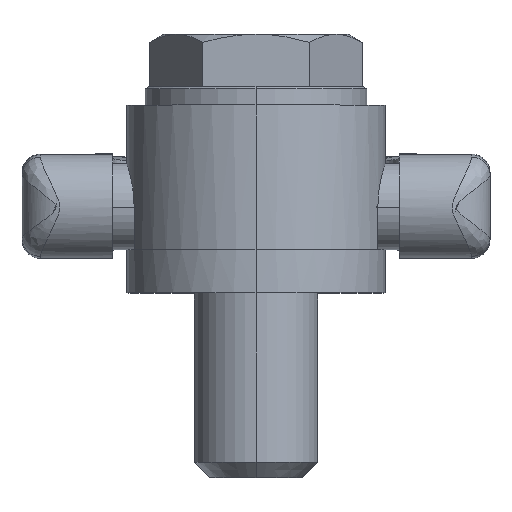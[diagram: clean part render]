
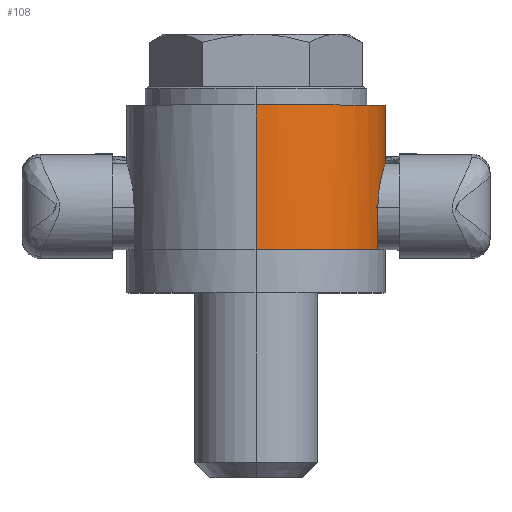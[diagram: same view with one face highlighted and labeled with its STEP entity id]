
A CAD part, top view. The second image highlights one B-rep face of the part: STEP entity #108.
In plain terms, the highlighted cylindrical face has radius 21 mm (diameter 42 mm), a partial arc.
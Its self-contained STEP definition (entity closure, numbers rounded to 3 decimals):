
#64 = VERTEX_POINT ( 'NONE', #1608 ) ;
#65 = VERTEX_POINT ( 'NONE', #1607 ) ;
#82 = ORIENTED_EDGE ( 'NONE', *, *, #304, .F. ) ;
#99 = EDGE_CURVE ( 'NONE', #64, #65, #1894, .T. ) ;
#107 = EDGE_LOOP ( 'NONE', ( #109, #183, #82, #294, #403, #416, #314, #321 ) ) ;
#108 = ADVANCED_FACE ( 'NONE', ( #1843 ), #1842, .T. ) ;
#109 = ORIENTED_EDGE ( 'NONE', *, *, #99, .F. ) ;
#183 = ORIENTED_EDGE ( 'NONE', *, *, #185, .T. ) ;
#185 = EDGE_CURVE ( 'NONE', #64, #186, #2091, .T. ) ;
#186 = VERTEX_POINT ( 'NONE', #2087 ) ;
#294 = ORIENTED_EDGE ( 'NONE', *, *, #401, .T. ) ;
#304 = EDGE_CURVE ( 'NONE', #379, #186, #2571, .T. ) ;
#313 = VERTEX_POINT ( 'NONE', #2515 ) ;
#314 = ORIENTED_EDGE ( 'NONE', *, *, #315, .F. ) ;
#315 = EDGE_CURVE ( 'NONE', #316, #313, #2459, .T. ) ;
#316 = VERTEX_POINT ( 'NONE', #2454 ) ;
#321 = ORIENTED_EDGE ( 'NONE', *, *, #322, .F. ) ;
#322 = EDGE_CURVE ( 'NONE', #65, #316, #2447, .T. ) ;
#379 = VERTEX_POINT ( 'NONE', #2716 ) ;
#401 = EDGE_CURVE ( 'NONE', #379, #421, #2892, .T. ) ;
#403 = ORIENTED_EDGE ( 'NONE', *, *, #405, .T. ) ;
#405 = EDGE_CURVE ( 'NONE', #421, #407, #2780, .T. ) ;
#407 = VERTEX_POINT ( 'NONE', #3003 ) ;
#416 = ORIENTED_EDGE ( 'NONE', *, *, #418, .T. ) ;
#418 = EDGE_CURVE ( 'NONE', #407, #313, #2963, .T. ) ;
#421 = VERTEX_POINT ( 'NONE', #3009 ) ;
#1607 = CARTESIAN_POINT ( 'NONE',  ( 0., 30.5, -21. ) ) ;
#1608 = CARTESIAN_POINT ( 'NONE',  ( 0., 30.5, 21. ) ) ;
#1837 = DIRECTION ( 'NONE',  ( 0., 0., -1. ) ) ;
#1838 = DIRECTION ( 'NONE',  ( 0., -1., 0. ) ) ;
#1839 = CARTESIAN_POINT ( 'NONE',  ( 0., 33.5, 0. ) ) ;
#1840 = AXIS2_PLACEMENT_3D ( 'NONE', #1839, #1838, #1837 ) ;
#1842 = CYLINDRICAL_SURFACE ( 'NONE', #1840, 21. ) ;
#1843 = FACE_OUTER_BOUND ( 'NONE', #107, .T. ) ;
#1850 = DIRECTION ( 'NONE',  ( 0., 0., 1. ) ) ;
#1851 = DIRECTION ( 'NONE',  ( 0., 1., 0. ) ) ;
#1852 = CARTESIAN_POINT ( 'NONE',  ( 0., 30.5, 0. ) ) ;
#1894 = CIRCLE ( 'NONE', #1896, 21. ) ;
#1896 = AXIS2_PLACEMENT_3D ( 'NONE', #1852, #1851, #1850 ) ;
#2087 = CARTESIAN_POINT ( 'NONE',  ( 0., 7., 21. ) ) ;
#2088 = DIRECTION ( 'NONE',  ( 0., -1., 0. ) ) ;
#2089 = VECTOR ( 'NONE', #2088, 1000. ) ;
#2090 = CARTESIAN_POINT ( 'NONE',  ( 0., 33.5, 21. ) ) ;
#2091 = LINE ( 'NONE', #2090, #2089 ) ;
#2444 = DIRECTION ( 'NONE',  ( 0., -1., 0. ) ) ;
#2445 = VECTOR ( 'NONE', #2444, 1000. ) ;
#2446 = CARTESIAN_POINT ( 'NONE',  ( 0., 33.5, -21. ) ) ;
#2447 = LINE ( 'NONE', #2446, #2445 ) ;
#2454 = CARTESIAN_POINT ( 'NONE',  ( 0., 7., -21. ) ) ;
#2455 = DIRECTION ( 'NONE',  ( 0., 0., -1. ) ) ;
#2456 = DIRECTION ( 'NONE',  ( 0., -1., 0. ) ) ;
#2457 = CARTESIAN_POINT ( 'NONE',  ( 0., 7., 0. ) ) ;
#2458 = AXIS2_PLACEMENT_3D ( 'NONE', #2457, #2456, #2455 ) ;
#2459 = CIRCLE ( 'NONE', #2458, 21. ) ;
#2515 = CARTESIAN_POINT ( 'NONE',  ( 19.799, 7., -7. ) ) ;
#2567 = DIRECTION ( 'NONE',  ( 0., 0., -1. ) ) ;
#2568 = DIRECTION ( 'NONE',  ( 0., -1., 0. ) ) ;
#2569 = CARTESIAN_POINT ( 'NONE',  ( 0., 7., 0. ) ) ;
#2570 = AXIS2_PLACEMENT_3D ( 'NONE', #2569, #2568, #2567 ) ;
#2571 = CIRCLE ( 'NONE', #2570, 21. ) ;
#2716 = CARTESIAN_POINT ( 'NONE',  ( 19.799, 7., 7. ) ) ;
#2775 = CARTESIAN_POINT ( 'NONE',  ( 20.215, 18.083, 5.69 ) ) ;
#2776 = CARTESIAN_POINT ( 'NONE',  ( 20.105, 17.515, 6.071 ) ) ;
#2777 = CARTESIAN_POINT ( 'NONE',  ( 20.038, 17.114, 6.286 ) ) ;
#2778 = CARTESIAN_POINT ( 'NONE',  ( 19.953, 16.48, 6.55 ) ) ;
#2779 = CARTESIAN_POINT ( 'NONE',  ( 19.927, 16.261, 6.629 ) ) ;
#2780 = B_SPLINE_CURVE_WITH_KNOTS ( 'NONE', 3,
 ( #2898, #2897, #2896, #2895, #2894, #2779, #2778, #2777, #2776, #2775, #2945, #2944, #2943, #2942, #2941, #2940, #2837, #2836, #2835, #2834, #2833, #2832, #2831, #2830, #2829, #2828, #2905, #2904, #2903, #2902, #2901, #2900, #2899, #2913, #2912, #2911, #2910, #2909, #2908, #2907, #2906, #2939, #2938, #2937 ),
 .UNSPECIFIED., .F., .F.,
 ( 4, 2, 2, 2, 2, 2, 2, 2, 2, 2, 2, 2, 2, 2, 2, 2, 2, 2, 2, 2, 2, 4 ),
 ( 0., 0.001, 0.002, 0.003, 0.004, 0.005, 0.006, 0.007, 0.008, 0.009, 0.01, 0.011, 0.012, 0.014, 0.015, 0.016, 0.017, 0.018, 0.019, 0.021, 0.021, 0.022 ),
 .UNSPECIFIED. ) ;
#2827 = VECTOR ( 'NONE', #2840, 1000. ) ;
#2828 = CARTESIAN_POINT ( 'NONE',  ( 20.926, 20.775, -1.821 ) ) ;
#2829 = CARTESIAN_POINT ( 'NONE',  ( 20.985, 20.954, -0.92 ) ) ;
#2830 = CARTESIAN_POINT ( 'NONE',  ( 21., 21., -0.453 ) ) ;
#2831 = CARTESIAN_POINT ( 'NONE',  ( 21., 21., 0.468 ) ) ;
#2832 = CARTESIAN_POINT ( 'NONE',  ( 20.985, 20.954, 0.924 ) ) ;
#2833 = CARTESIAN_POINT ( 'NONE',  ( 20.94, 20.818, 1.603 ) ) ;
#2834 = CARTESIAN_POINT ( 'NONE',  ( 20.921, 20.761, 1.829 ) ) ;
#2835 = CARTESIAN_POINT ( 'NONE',  ( 20.878, 20.626, 2.269 ) ) ;
#2836 = CARTESIAN_POINT ( 'NONE',  ( 20.854, 20.548, 2.484 ) ) ;
#2837 = CARTESIAN_POINT ( 'NONE',  ( 20.772, 20.286, 3.114 ) ) ;
#2840 = DIRECTION ( 'NONE',  ( 0., 1., 0. ) ) ;
#2841 = CARTESIAN_POINT ( 'NONE',  ( 19.799, 33.5, 7. ) ) ;
#2863 = DIRECTION ( 'NONE',  ( 0., -1., 0. ) ) ;
#2864 = VECTOR ( 'NONE', #2863, 1000. ) ;
#2865 = CARTESIAN_POINT ( 'NONE',  ( 19.799, 33.5, -7. ) ) ;
#2892 = LINE ( 'NONE', #2841, #2827 ) ;
#2894 = CARTESIAN_POINT ( 'NONE',  ( 19.881, 15.82, 6.763 ) ) ;
#2895 = CARTESIAN_POINT ( 'NONE',  ( 19.862, 15.598, 6.819 ) ) ;
#2896 = CARTESIAN_POINT ( 'NONE',  ( 19.815, 14.923, 6.954 ) ) ;
#2897 = CARTESIAN_POINT ( 'NONE',  ( 19.799, 14.466, 7. ) ) ;
#2898 = CARTESIAN_POINT ( 'NONE',  ( 19.799, 14., 7. ) ) ;
#2899 = CARTESIAN_POINT ( 'NONE',  ( 20.448, 19.112, -4.787 ) ) ;
#2900 = CARTESIAN_POINT ( 'NONE',  ( 20.487, 19.267, -4.617 ) ) ;
#2901 = CARTESIAN_POINT ( 'NONE',  ( 20.563, 19.556, -4.264 ) ) ;
#2902 = CARTESIAN_POINT ( 'NONE',  ( 20.6, 19.692, -4.081 ) ) ;
#2903 = CARTESIAN_POINT ( 'NONE',  ( 20.707, 20.07, -3.515 ) ) ;
#2904 = CARTESIAN_POINT ( 'NONE',  ( 20.773, 20.288, -3.111 ) ) ;
#2905 = CARTESIAN_POINT ( 'NONE',  ( 20.883, 20.642, -2.259 ) ) ;
#2906 = CARTESIAN_POINT ( 'NONE',  ( 19.819, 14.927, -6.942 ) ) ;
#2907 = CARTESIAN_POINT ( 'NONE',  ( 19.832, 15.158, -6.907 ) ) ;
#2908 = CARTESIAN_POINT ( 'NONE',  ( 19.879, 15.837, -6.77 ) ) ;
#2909 = CARTESIAN_POINT ( 'NONE',  ( 19.925, 16.273, -6.636 ) ) ;
#2910 = CARTESIAN_POINT ( 'NONE',  ( 20.038, 17.115, -6.285 ) ) ;
#2911 = CARTESIAN_POINT ( 'NONE',  ( 20.107, 17.524, -6.065 ) ) ;
#2912 = CARTESIAN_POINT ( 'NONE',  ( 20.253, 18.279, -5.558 ) ) ;
#2913 = CARTESIAN_POINT ( 'NONE',  ( 20.33, 18.629, -5.271 ) ) ;
#2937 = CARTESIAN_POINT ( 'NONE',  ( 19.799, 14., -7. ) ) ;
#2938 = CARTESIAN_POINT ( 'NONE',  ( 19.799, 14.233, -7. ) ) ;
#2939 = CARTESIAN_POINT ( 'NONE',  ( 19.803, 14.465, -6.988 ) ) ;
#2940 = CARTESIAN_POINT ( 'NONE',  ( 20.707, 20.07, 3.516 ) ) ;
#2941 = CARTESIAN_POINT ( 'NONE',  ( 20.563, 19.558, 4.28 ) ) ;
#2942 = CARTESIAN_POINT ( 'NONE',  ( 20.486, 19.269, 4.63 ) ) ;
#2943 = CARTESIAN_POINT ( 'NONE',  ( 20.369, 18.789, 5.11 ) ) ;
#2944 = CARTESIAN_POINT ( 'NONE',  ( 20.33, 18.621, 5.263 ) ) ;
#2945 = CARTESIAN_POINT ( 'NONE',  ( 20.253, 18.268, 5.553 ) ) ;
#2963 = LINE ( 'NONE', #2865, #2864 ) ;
#3003 = CARTESIAN_POINT ( 'NONE',  ( 19.799, 14., -7. ) ) ;
#3009 = CARTESIAN_POINT ( 'NONE',  ( 19.799, 14., 7. ) ) ;
